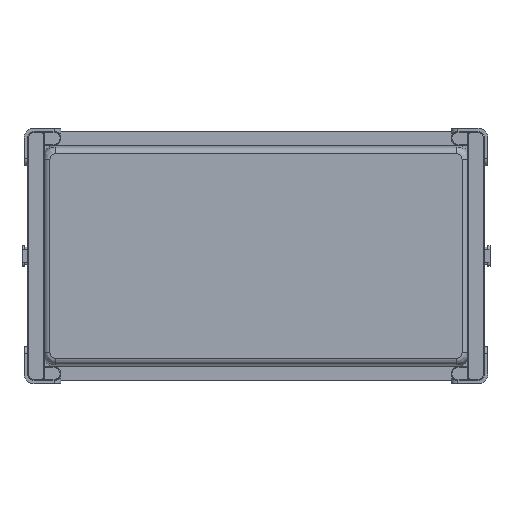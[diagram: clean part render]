
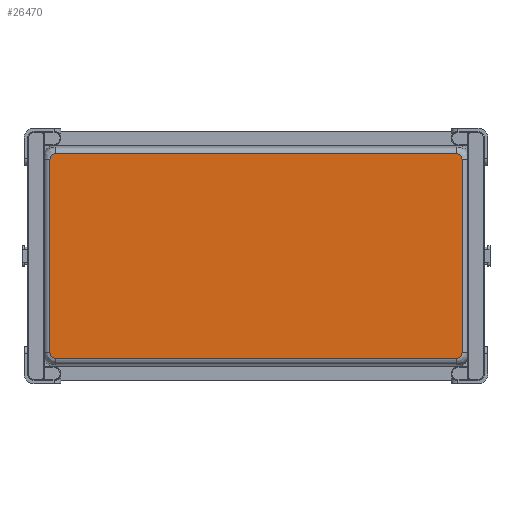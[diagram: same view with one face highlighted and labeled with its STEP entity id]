
A CAD part, front view. The second image highlights one B-rep face of the part: STEP entity #26470.
In plain terms, the highlighted planar face has unit normal (0, -1, 0).
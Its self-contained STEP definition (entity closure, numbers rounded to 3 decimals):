
#9533=DIRECTION('',(1.,0.,0.));
#9534=VECTOR('',#9533,597.);
#9535=CARTESIAN_POINT('',(-298.5,-23.,-151.906));
#9536=LINE('',#9535,#9534);
#9560=DIRECTION('',(0.,0.,-1.));
#9561=VECTOR('',#9560,288.);
#9562=CARTESIAN_POINT('',(-306.406,-23.,144.));
#9563=LINE('',#9562,#9561);
#9583=DIRECTION('',(-1.,0.,0.));
#9584=VECTOR('',#9583,597.);
#9585=CARTESIAN_POINT('',(298.5,-23.,151.906));
#9586=LINE('',#9585,#9584);
#9602=DIRECTION('',(0.,0.,1.));
#9603=VECTOR('',#9602,288.);
#9604=CARTESIAN_POINT('',(306.406,-23.,-144.));
#9605=LINE('',#9604,#9603);
#9610=CARTESIAN_POINT('',(298.5,-23.,-144.));
#9611=DIRECTION('',(0.,1.,0.));
#9612=DIRECTION('',(1.,0.,0.));
#9613=AXIS2_PLACEMENT_3D('',#9610,#9611,#9612);
#9615=CARTESIAN_POINT('',(-298.5,-23.,-144.));
#9616=DIRECTION('',(0.,1.,0.));
#9617=DIRECTION('',(0.,0.,-1.));
#9618=AXIS2_PLACEMENT_3D('',#9615,#9616,#9617);
#9620=CARTESIAN_POINT('',(-298.5,-23.,144.));
#9621=DIRECTION('',(0.,1.,0.));
#9622=DIRECTION('',(-1.,0.,0.));
#9623=AXIS2_PLACEMENT_3D('',#9620,#9621,#9622);
#9625=CARTESIAN_POINT('',(298.5,-23.,144.));
#9626=DIRECTION('',(0.,1.,0.));
#9627=DIRECTION('',(0.,0.,1.));
#9628=AXIS2_PLACEMENT_3D('',#9625,#9626,#9627);
#11697=CARTESIAN_POINT('',(298.5,-23.,-151.906));
#11698=VERTEX_POINT('',#11697);
#11699=CARTESIAN_POINT('',(306.406,-23.,-144.));
#11700=VERTEX_POINT('',#11699);
#11701=CARTESIAN_POINT('',(-298.5,-23.,-151.906));
#11702=VERTEX_POINT('',#11701);
#11703=CARTESIAN_POINT('',(-306.406,-23.,-144.));
#11704=VERTEX_POINT('',#11703);
#11705=CARTESIAN_POINT('',(-306.406,-23.,144.));
#11706=VERTEX_POINT('',#11705);
#11707=CARTESIAN_POINT('',(-298.5,-23.,151.906));
#11708=VERTEX_POINT('',#11707);
#11709=CARTESIAN_POINT('',(298.5,-23.,151.906));
#11710=VERTEX_POINT('',#11709);
#11711=CARTESIAN_POINT('',(306.406,-23.,144.));
#11712=VERTEX_POINT('',#11711);
#26455=CARTESIAN_POINT('',(298.5,-23.,-144.));
#26456=DIRECTION('',(0.,-1.,0.));
#26457=DIRECTION('',(0.,0.,1.));
#26458=AXIS2_PLACEMENT_3D('',#26455,#26456,#26457);
#26459=PLANE('',#26458);
#26460=ORIENTED_EDGE('',*,*,#26448,.F.);
#26461=ORIENTED_EDGE('',*,*,#26314,.T.);
#26462=ORIENTED_EDGE('',*,*,#26329,.F.);
#26463=ORIENTED_EDGE('',*,*,#26355,.T.);
#26464=ORIENTED_EDGE('',*,*,#26371,.F.);
#26465=ORIENTED_EDGE('',*,*,#26397,.T.);
#26466=ORIENTED_EDGE('',*,*,#26411,.F.);
#26467=ORIENTED_EDGE('',*,*,#26435,.T.);
#26468=EDGE_LOOP('',(#26460,#26461,#26462,#26463,#26464,#26465,#26466,#26467));
#26469=FACE_OUTER_BOUND('',#26468,.F.);
#26470=ADVANCED_FACE('',(#26469),#26459,.T.);
#9614=CIRCLE('',#9613,7.906);
#9619=CIRCLE('',#9618,7.906);
#9624=CIRCLE('',#9623,7.906);
#9629=CIRCLE('',#9628,7.906);
#26314=EDGE_CURVE('',#11700,#11698,#9614,.T.);
#26329=EDGE_CURVE('',#11702,#11698,#9536,.T.);
#26355=EDGE_CURVE('',#11702,#11704,#9619,.T.);
#26371=EDGE_CURVE('',#11706,#11704,#9563,.T.);
#26397=EDGE_CURVE('',#11706,#11708,#9624,.T.);
#26411=EDGE_CURVE('',#11710,#11708,#9586,.T.);
#26435=EDGE_CURVE('',#11710,#11712,#9629,.T.);
#26448=EDGE_CURVE('',#11700,#11712,#9605,.T.);
